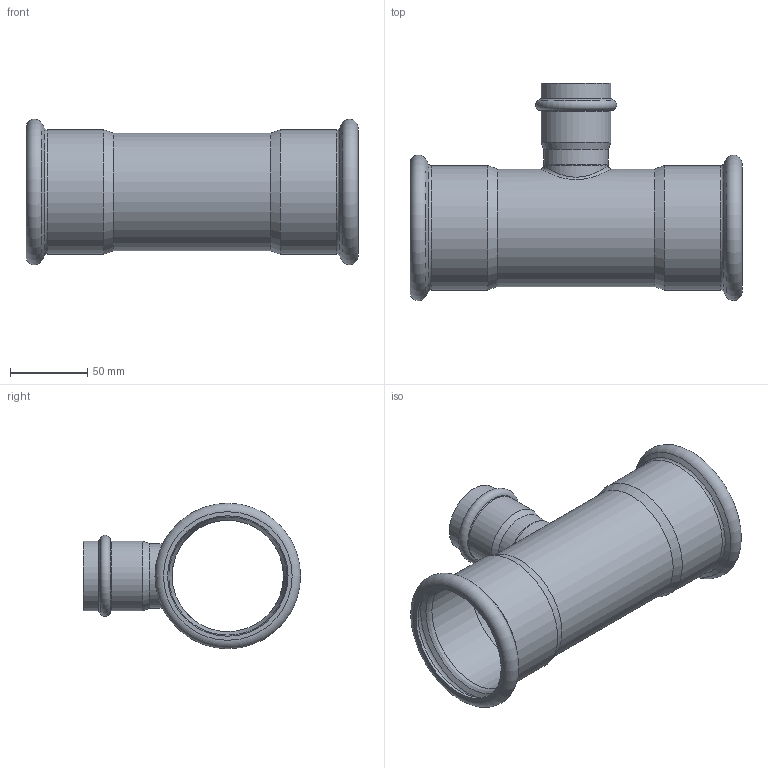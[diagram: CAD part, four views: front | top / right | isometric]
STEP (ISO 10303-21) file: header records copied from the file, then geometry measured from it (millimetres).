
FILE_DESCRIPTION((''),'2;1');
FILE_NAME('G:\Nirosan-Schmiedefeld\Technics\CAD\Bauteile VA\076\69130764276(3).stp','2010-03-31T09:01:12',('herberg'),(''),'Autodesk Inventor 2009','Autodesk Inventor 2009','');
FILE_SCHEMA(('AUTOMOTIVE_DESIGN { 1 0 10303 214 1 1 1 1 }'));
Length unit declared in the file: millimetre
Products named in the file (3): 69130764276(3); LM_69130764276(1); HM_6924342(2)
Assembly tree (2 placements, depth 2):
  69130764276(3)
    LM_69130764276(1)
    HM_6924342(2)
Bounding box: 215 x 140.65 x 94.3 mm (x, y, z)
Volume: 123569.5 mm3; surface area: 129133.9 mm2
Topology: 2 solids, 2 shells, 51 faces, 105 edges, 60 vertices
Faces by surface type: cylinder 16, cone 12, bspline 10, plane 7, torus 6
Full cylindrical faces by diameter (mm): 38 x1, 39 x1, 42 x2, 42.3 x2, 45.3 x2, 72.1 x1, 76.1 x1, 76.6 x2, 78 x2, 80.6 x2
Entity records: 3194 total; most frequent: CARTESIAN_POINT 2269, DIRECTION 190, ORIENTED_EDGE 108, EDGE_LOOP 102, AXIS2_PLACEMENT_3D 95, EDGE_CURVE 54, VERTEX_POINT 52, FACE_OUTER_BOUND 51
